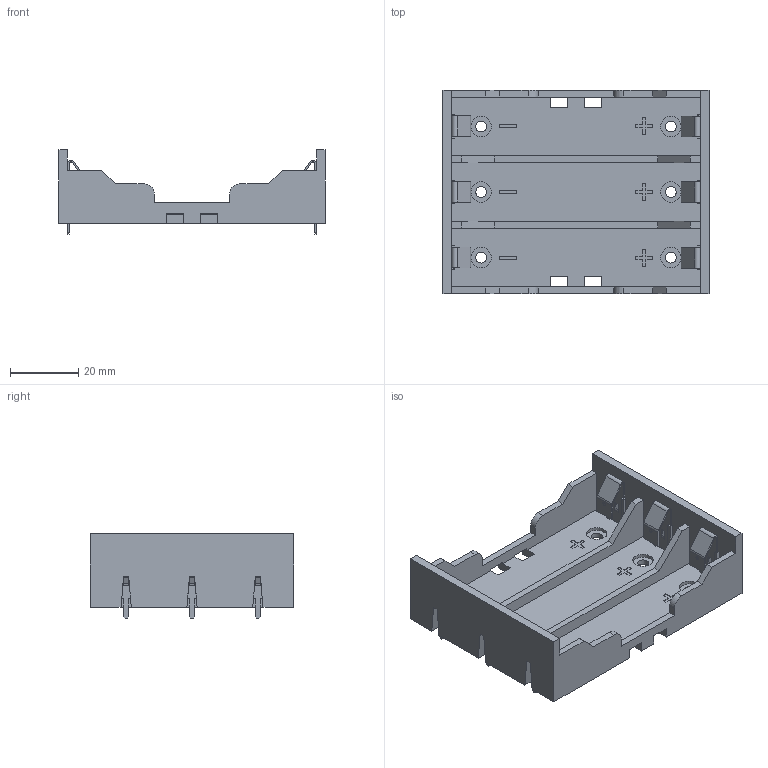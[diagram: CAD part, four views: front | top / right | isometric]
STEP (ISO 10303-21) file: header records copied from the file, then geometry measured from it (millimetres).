
FILE_DESCRIPTION(('FreeCAD Model'),'2;1');
FILE_NAME('Open CASCADE Shape Model','2022-11-10T08:53:14',(''),(''), 'Open CASCADE STEP processor 7.6','FreeCAD','Unknown');
FILE_SCHEMA(('CONFIG_CONTROL_DESIGN','SHAPE_APPEARANCE_LAYER_MIM'));
Length unit declared in the file: millimetre
Products named in the file (3): Body; Body002; Body003
Bounding box: 77.98 x 59.63 x 24.74 mm (x, y, z)
Volume: 21215.8 mm3; surface area: 21705.6 mm2
Topology: 7 solids, 7 shells, 444 faces, 1284 edges, 852 vertices
Faces by surface type: plane 386, cylinder 58
Full cylindrical faces by diameter (mm): 1 x6, 3.2 x6, 6 x6
Entity records: 14632 total; most frequent: CARTESIAN_POINT 2581, ORIENTED_EDGE 2568, DIRECTION 2290, EDGE_CURVE 1284, LINE 1168, VECTOR 1168, VERTEX_POINT 852, AXIS2_PLACEMENT_3D 561
